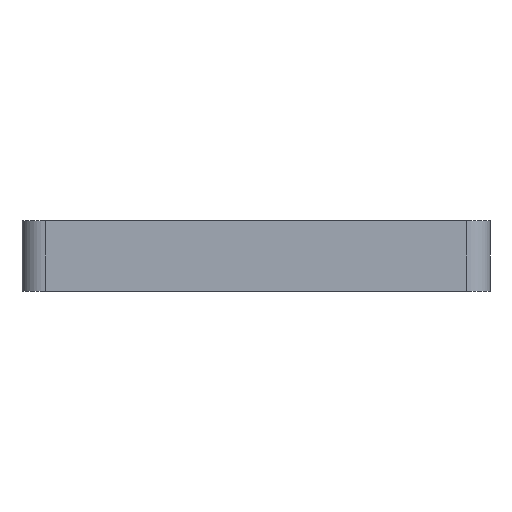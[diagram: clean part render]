
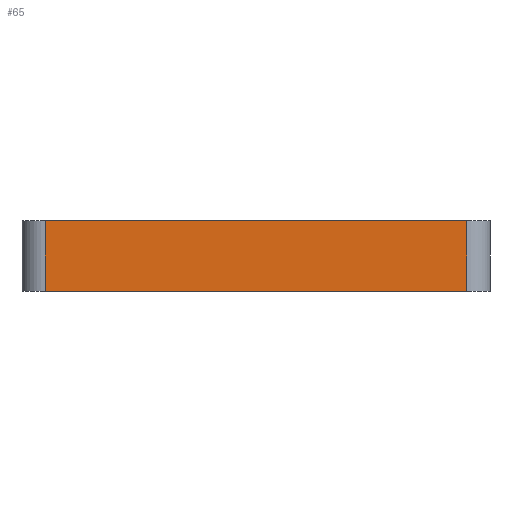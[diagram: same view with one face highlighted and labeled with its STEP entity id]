
A CAD part, left-side view. The second image highlights one B-rep face of the part: STEP entity #65.
In plain terms, the highlighted planar face has unit normal (-1, 0, 0).
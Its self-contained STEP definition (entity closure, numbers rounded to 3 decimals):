
#65 = ADVANCED_FACE( '', ( #153 ), #154, .T. );
#153 = FACE_OUTER_BOUND( '', #286, .T. );
#154 = PLANE( '', #287 );
#286 = EDGE_LOOP( '', ( #426, #427, #428, #429 ) );
#287 = AXIS2_PLACEMENT_3D( '', #430, #431, #432 );
#426 = ORIENTED_EDGE( '', *, *, #667, .F. );
#427 = ORIENTED_EDGE( '', *, *, #668, .T. );
#428 = ORIENTED_EDGE( '', *, *, #669, .T. );
#429 = ORIENTED_EDGE( '', *, *, #670, .T. );
#430 = CARTESIAN_POINT( '', ( -44.45, 31.75, -9.525 ) );
#431 = DIRECTION( '', ( -1., 0., 0. ) );
#432 = DIRECTION( '', ( 0., -1., 0. ) );
#667 = EDGE_CURVE( '', #776, #777, #778, .T. );
#668 = EDGE_CURVE( '', #776, #779, #780, .F. );
#669 = EDGE_CURVE( '', #779, #781, #782, .T. );
#670 = EDGE_CURVE( '', #781, #777, #783, .T. );
#776 = VERTEX_POINT( '', #929 );
#777 = VERTEX_POINT( '', #930 );
#778 = LINE( '', #931, #932 );
#779 = VERTEX_POINT( '', #933 );
#780 = LINE( '', #934, #935 );
#781 = VERTEX_POINT( '', #936 );
#782 = LINE( '', #937, #938 );
#783 = LINE( '', #939, #940 );
#929 = CARTESIAN_POINT( '', ( -44.45, 28.575, 0. ) );
#930 = CARTESIAN_POINT( '', ( -44.45, -28.575, 0. ) );
#931 = CARTESIAN_POINT( '', ( -44.45, 31.75, 0. ) );
#932 = VECTOR( '', #1100, 1000. );
#933 = CARTESIAN_POINT( '', ( -44.45, 28.575, -9.525 ) );
#934 = CARTESIAN_POINT( '', ( -44.45, 28.575, -9.525 ) );
#935 = VECTOR( '', #1101, 1000. );
#936 = CARTESIAN_POINT( '', ( -44.45, -28.575, -9.525 ) );
#937 = CARTESIAN_POINT( '', ( -44.45, 31.75, -9.525 ) );
#938 = VECTOR( '', #1102, 1000. );
#939 = CARTESIAN_POINT( '', ( -44.45, -28.575, -9.525 ) );
#940 = VECTOR( '', #1103, 1000. );
#1100 = DIRECTION( '', ( 0., -1., 0. ) );
#1101 = DIRECTION( '', ( 0., 0., 1. ) );
#1102 = DIRECTION( '', ( 0., -1., 0. ) );
#1103 = DIRECTION( '', ( 0., 0., 1. ) );
